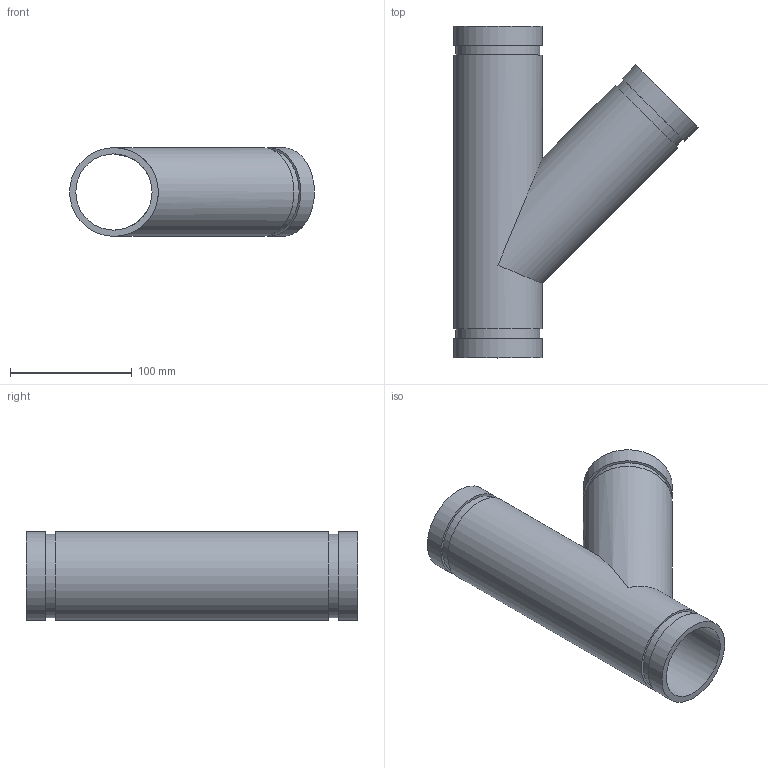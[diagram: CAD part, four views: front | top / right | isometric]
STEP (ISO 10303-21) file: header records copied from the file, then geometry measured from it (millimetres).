
FILE_DESCRIPTION(/* description */ ('VIC 45 DEG FABRICATED LATERAL No 30 SWS (OGS)','CAx-IF Rec.Pracs.---Representation and Presentation of Product Manufacturing Information (PMI)---4.0---2014-10-13'),/* implementation_level */ '2;1');
FILE_NAME(/* name */ 'C:\Users\kkamble\AppData\Roaming\Autodesk\ApplicationPlugins\Back Up\Victaulic_IPS_Lateral 45 Deg_No 30 SWS (OGS)\Victaulic_IPS_Lateral 45 Deg_No 30 SWS (OGS)_2.5 (65).stp',/* time_stamp */ '2020-09-16T22:20:35+06:00',/* author */ ('cgray'),/* organization */ ('Victaulic'),/* preprocessor_version */ 'ST-DEVELOPER v17.2',/* originating_system */ 'Autodesk Inventor 2019',/* authorisation */ '');
FILE_SCHEMA (('AP242_MANAGED_MODEL_BASED_3D_ENGINEERING_MIM_LF { 1 0 10303 442 1 1 4 }'));
Length unit declared in the file: inch
Products named in the file (1): 30 SWS-02.5
Bounding box: 201.52 x 273.05 x 73.03 mm (x, y, z)
Volume: 438815 mm3; surface area: 179813.4 mm2
Topology: 1 solids, 1 shells, 19 faces, 45 edges, 34 vertices
Faces by surface type: cylinder 10, plane 9
Full cylindrical faces by diameter (mm): 62.713 x2, 69.088 x3, 73.025 x5
Entity records: 748 total; most frequent: DIRECTION 145, CARTESIAN_POINT 116, ORIENTED_EDGE 90, AXIS2_PLACEMENT_3D 67, EDGE_CURVE 45, VERTEX_POINT 34, EDGE_LOOP 29, CIRCLE 27
